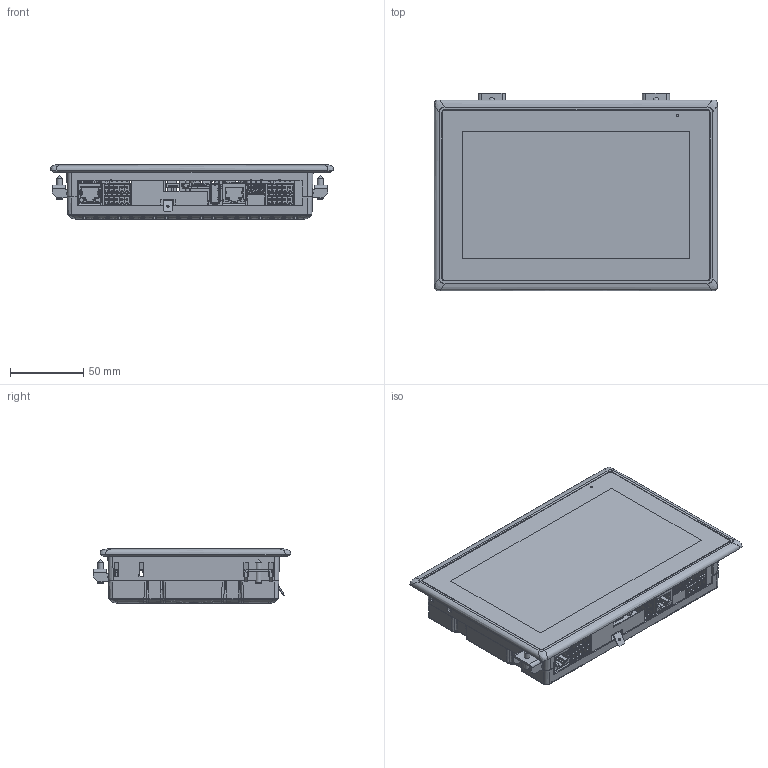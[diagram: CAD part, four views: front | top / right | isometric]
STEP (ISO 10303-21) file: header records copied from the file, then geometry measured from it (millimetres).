
FILE_DESCRIPTION (( 'STEP AP214' ), '1' );
FILE_NAME ('ET0710-02 (01-235-0710-02) Export20251126.STEP', '2025-11-26T12:51:16', ( '' ), ( '' ), 'SwSTEP 2.0', 'SolidWorks 2024', '' );
FILE_SCHEMA (( 'AUTOMOTIVE_DESIGN' ));
Length unit declared in the file: millimetre
Products named in the file (1): ET0710-02 (01-235-0710-02) Export20251126
Bounding box: 193 x 134.59 x 37 mm (x, y, z)
Volume: 211716.1 mm3; surface area: 239742.7 mm2
Topology: 47 solids, 47 shells, 7157 faces, 19367 edges, 12372 vertices
Faces by surface type: plane 4902, cylinder 1049, bspline 929, cone 217, torus 44, sphere 16
Full cylindrical faces by diameter (mm): 0.323 x1, 0.457 x2, 0.5 x6, 1.2 x20, 1.5 x2, 1.6 x16, 1.7 x1, 2.65 x4, 2.7 x2, 3.3 x6, 4 x6
Entity records: 335780 total; most frequent: CARTESIAN_POINT 92101, ORIENTED_EDGE 38400, DIRECTION 31285, EDGE_CURVE 19200, VECTOR 14543, LINE 14543, VERTEX_POINT 12316, AXIS2_PLACEMENT_3D 8371
